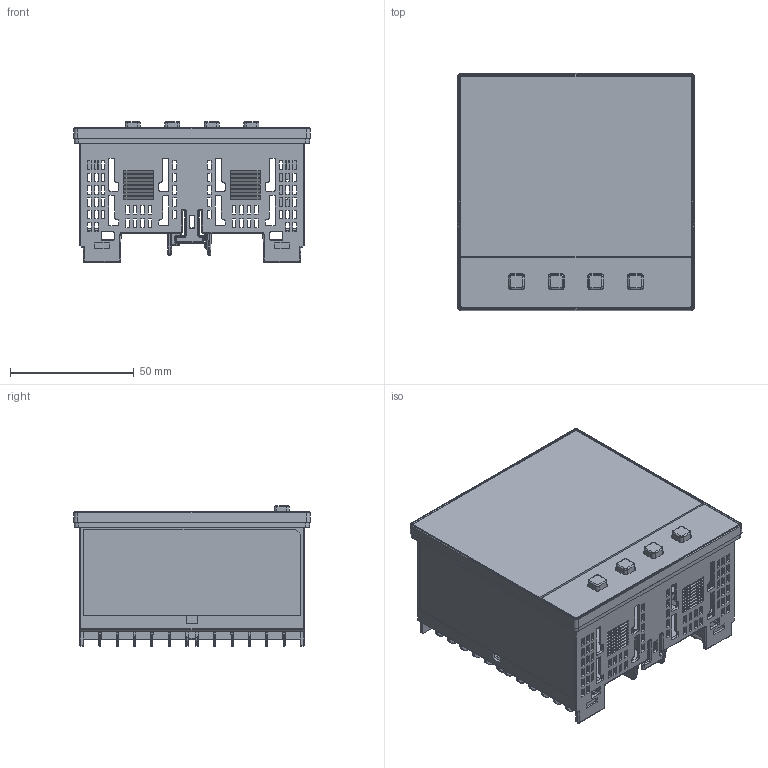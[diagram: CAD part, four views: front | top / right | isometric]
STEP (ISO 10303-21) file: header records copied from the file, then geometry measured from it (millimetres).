
FILE_DESCRIPTION((''),'2;1');
FILE_NAME('ME_C42_ASM','2018-05-24T',('Harry'),(''),'CREO PARAMETRIC BY PTC INC, 2014350','CREO PARAMETRIC BY PTC INC, 2014350','');
FILE_SCHEMA(('CONFIG_CONTROL_DESIGN','GEOMETRIC_VALIDATION_PROPERTIES_MIM'));
Products named in the file (9): ME_C42_COVER_FRONT; ME_C42_HOUSING; ME_C42_DECO_FRONT; ME_C42_O-RING_OUT; ME_C42_LCD_GLASS; ME_C42_PCB_CNTL_SET_ASM; ME_C42_PCB_SET_ASM; ME_C42_RBKY; ME_C42_ASM
Assembly tree (11 placements, depth 4):
  ME_C42_ASM
    ME_C42_COVER_FRONT
    ME_C42_HOUSING
    ME_C42_DECO_FRONT
    ME_C42_O-RING_OUT
    ME_C42_PCB_SET_ASM
      ME_C42_PCB_CNTL_SET_ASM
        ME_C42_LCD_GLASS
    ME_C42_RBKY  x4
Bounding box: 95.8 x 95.8 x 56.8 mm (x, y, z)
Volume: 61277.9 mm3; surface area: 112591.6 mm2
Topology: 9 solids, 9 shells, 3997 faces, 10805 edges, 6884 vertices
Faces by surface type: plane 2714, cylinder 841, bspline 244, cone 138, sphere 36, torus 24
Entity records: 171428 total; most frequent: CARTESIAN_POINT 46743, ORIENTED_EDGE 20518, DIRECTION 17423, EDGE_CURVE 10259, PRESENTATION_STYLE_ASSIGNMENT 10218, STYLED_ITEM 10216, CURVE_STYLE 10211, VECTOR 8305
